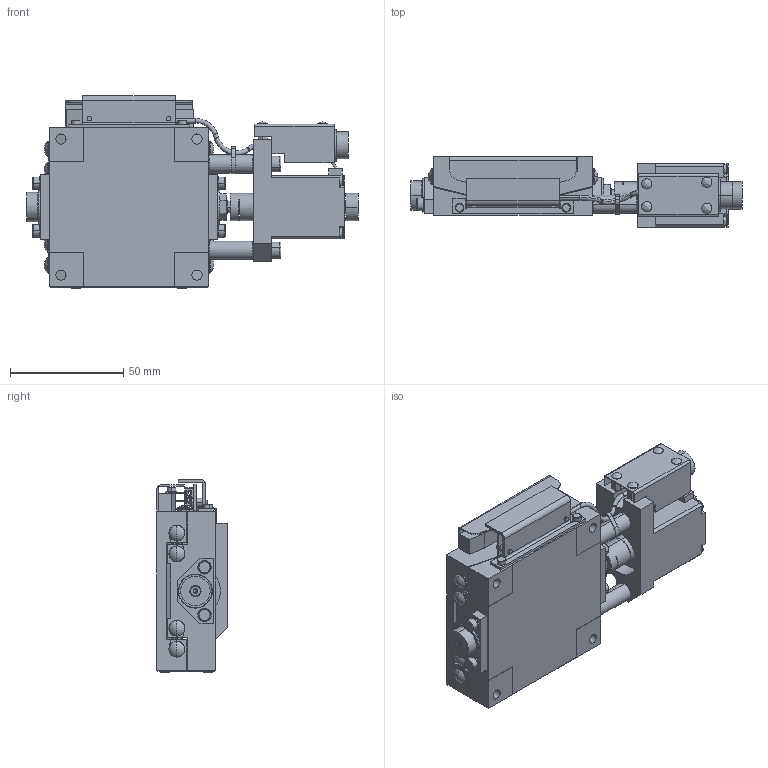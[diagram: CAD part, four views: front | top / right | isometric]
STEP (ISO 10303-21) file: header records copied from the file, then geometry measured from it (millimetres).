
FILE_DESCRIPTION (( 'STEP AP214' ), '1' );
FILE_NAME ('KGB07096AM-RT.STEP', '2024-04-17T01:05:30', ( '' ), ( '' ), 'SwSTEP 2.0', 'SolidWorks 2017', '' );
FILE_SCHEMA (( 'AUTOMOTIVE_DESIGN' ));
Length unit declared in the file: millimetre
Products named in the file (5): KGB-70-T-R; KGB07096AM-RT; KGB-TOP-07096-R; KGB-BASE-07096-R; KGB-70-M-12-R
Assembly tree (4 placements, depth 2):
  KGB07096AM-RT
    KGB-BASE-07096-R
    KGB-TOP-07096-R
    KGB-70-T-R
    KGB-70-M-12-R
Bounding box: 146.4 x 31 x 85.1 mm (x, y, z)
Volume: 169936.2 mm3; surface area: 60677.3 mm2
Topology: 7 solids, 48 shells, 1420 faces, 3479 edges, 2237 vertices
Faces by surface type: plane 728, cylinder 475, cone 125, torus 48, bspline 24, sphere 20
Entity records: 43143 total; most frequent: CARTESIAN_POINT 8234, DIRECTION 7418, ORIENTED_EDGE 6858, EDGE_CURVE 3429, AXIS2_PLACEMENT_3D 2653, VERTEX_POINT 2237, LINE 2112, VECTOR 2112
